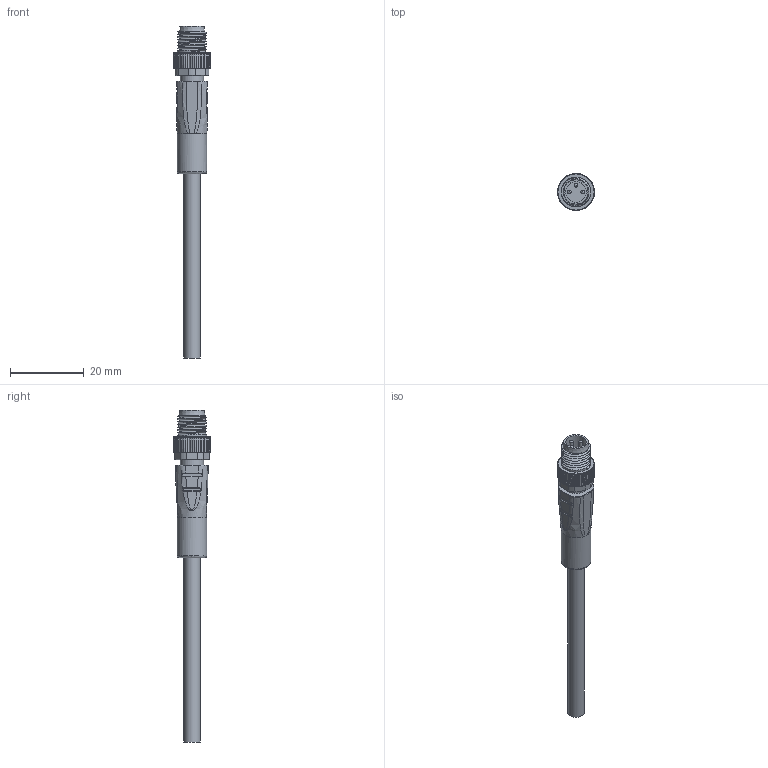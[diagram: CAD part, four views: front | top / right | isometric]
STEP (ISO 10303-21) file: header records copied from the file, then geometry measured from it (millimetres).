
FILE_DESCRIPTION(/* description */ (''),/* implementation_level */ '2;1');
FILE_NAME(/* name */ 'M8-3MS-L.stp',/* time_stamp */ '2025-04-30T08:41:06+08:00',/* author */ (''),/* organization */ (''),/* preprocessor_version */ 'ST-DEVELOPER v16.7',/* originating_system */ 'SIEMENS PLM Software NX 12.0',/* authorisation */ '');
FILE_SCHEMA (('AUTOMOTIVE_DESIGN { 1 0 10303 214 3 1 1 1 }'));
Length unit declared in the file: millimetre
Products named in the file (1): Admi29D80F4Ci9ai
Bounding box: 10 x 10 x 90 mm (x, y, z)
Volume: 2807.2 mm3; surface area: 2727.6 mm2
Topology: 1 solids, 1 shells, 426 faces, 957 edges, 550 vertices
Faces by surface type: cylinder 148, cone 128, plane 101, extrusion 22, bspline 19, torus 5, sphere 3
Full cylindrical faces by diameter (mm): 1 x3, 4.4 x1, 5.6 x1, 6.3 x1, 6.5 x1, 8 x1
Entity records: 17294 total; most frequent: CARTESIAN_POINT 8307, ORIENTED_EDGE 1866, DIRECTION 1815, EDGE_CURVE 933, AXIS2_PLACEMENT_3D 717, VERTEX_POINT 540, EDGE_LOOP 457, ADVANCED_FACE 426
